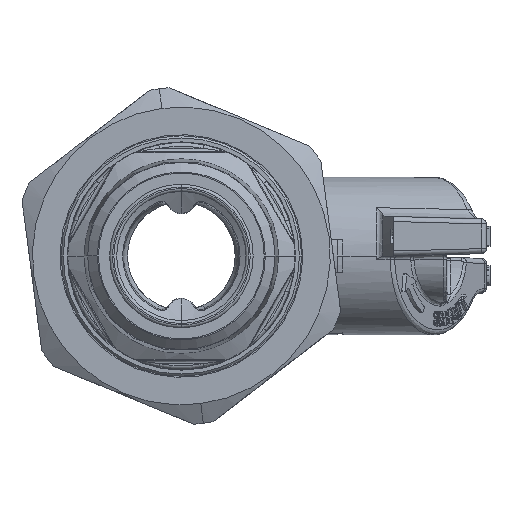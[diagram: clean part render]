
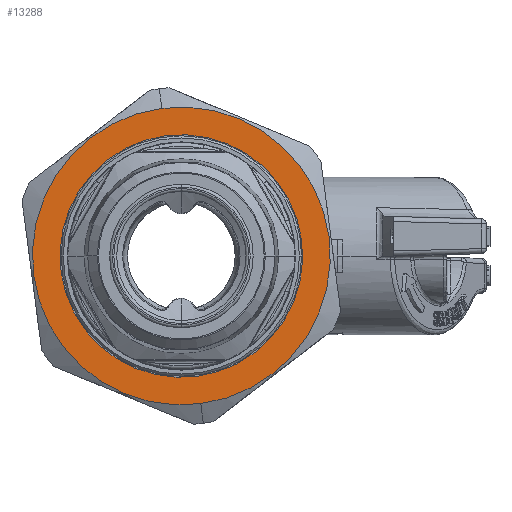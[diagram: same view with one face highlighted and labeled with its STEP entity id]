
A CAD part, front view. The second image highlights one B-rep face of the part: STEP entity #13288.
In plain terms, the highlighted planar face has unit normal (0, -1, 0) as drawn and (-1, 0, 0) by its records, which use the part's own axes.
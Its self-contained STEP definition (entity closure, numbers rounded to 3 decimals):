
#12775=CARTESIAN_POINT('',(0.,0.,0.));
#12776=DIRECTION('',(1.,0.,0.));
#12777=DIRECTION('',(0.,-1.,0.));
#12778=AXIS2_PLACEMENT_3D('',#12775,#12776,#12777);
#12780=CARTESIAN_POINT('',(0.,0.,0.));
#12781=DIRECTION('',(1.,0.,0.));
#12782=DIRECTION('',(0.,1.,0.));
#12783=AXIS2_PLACEMENT_3D('',#12780,#12781,#12782);
#12785=CARTESIAN_POINT('',(0.,0.,0.));
#12786=DIRECTION('',(-1.,0.,0.));
#12787=DIRECTION('',(0.,-1.,0.));
#12788=AXIS2_PLACEMENT_3D('',#12785,#12786,#12787);
#12790=CARTESIAN_POINT('',(0.,0.,0.));
#12791=DIRECTION('',(-1.,0.,0.));
#12792=DIRECTION('',(0.,1.,0.));
#12793=AXIS2_PLACEMENT_3D('',#12790,#12791,#12792);
#13176=CARTESIAN_POINT('',(0.,-20.75,0.));
#13178=VERTEX_POINT('',#13176);
#13180=CARTESIAN_POINT('',(0.,20.75,0.));
#13182=VERTEX_POINT('',#13180);
#13223=CARTESIAN_POINT('',(0.,-16.9,0.));
#13224=CARTESIAN_POINT('',(0.,16.9,0.));
#13225=VERTEX_POINT('',#13223);
#13226=VERTEX_POINT('',#13224);
#13271=CARTESIAN_POINT('',(0.,0.,0.));
#13272=DIRECTION('',(1.,0.,0.));
#13273=DIRECTION('',(0.,1.,0.));
#13274=AXIS2_PLACEMENT_3D('',#13271,#13272,#13273);
#13275=PLANE('',#13274);
#13277=ORIENTED_EDGE('',*,*,#13276,.T.);
#13279=ORIENTED_EDGE('',*,*,#13278,.T.);
#13280=EDGE_LOOP('',(#13277,#13279));
#13281=FACE_OUTER_BOUND('',#13280,.F.);
#13283=ORIENTED_EDGE('',*,*,#13282,.T.);
#13285=ORIENTED_EDGE('',*,*,#13284,.T.);
#13286=EDGE_LOOP('',(#13283,#13285));
#13287=FACE_BOUND('',#13286,.F.);
#13288=ADVANCED_FACE('',(#13281,#13287),#13275,.F.);
#12779=CIRCLE('',#12778,20.75);
#12784=CIRCLE('',#12783,20.75);
#12789=CIRCLE('',#12788,16.9);
#12794=CIRCLE('',#12793,16.9);
#13276=EDGE_CURVE('',#13178,#13182,#12779,.T.);
#13278=EDGE_CURVE('',#13182,#13178,#12784,.T.);
#13282=EDGE_CURVE('',#13225,#13226,#12789,.T.);
#13284=EDGE_CURVE('',#13226,#13225,#12794,.T.);
